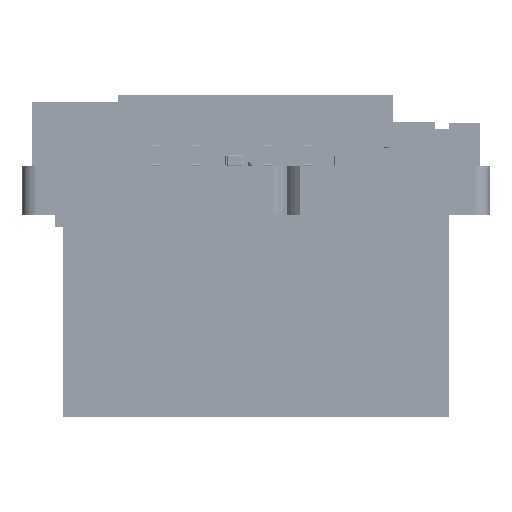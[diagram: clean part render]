
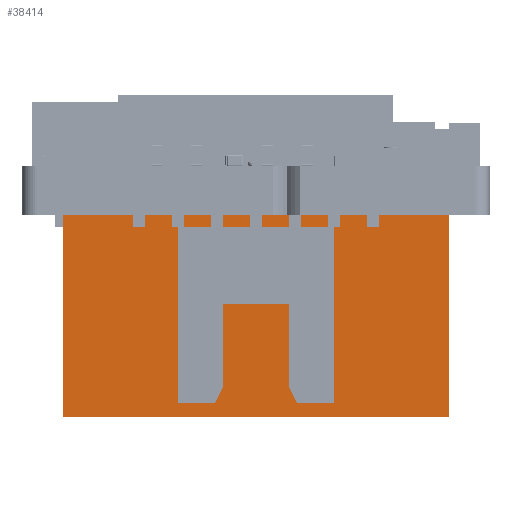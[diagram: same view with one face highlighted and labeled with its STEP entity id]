
A CAD part, front view. The second image highlights one B-rep face of the part: STEP entity #38414.
In plain terms, the highlighted planar face has unit normal (0, -1, 0).
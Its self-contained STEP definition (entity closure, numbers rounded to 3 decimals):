
#38389 = VERTEX_POINT('',#38390);
#38390 = CARTESIAN_POINT('',(6.3,-2.4,6.6));
#38396 = EDGE_CURVE('',#38397,#38389,#38399,.T.);
#38397 = VERTEX_POINT('',#38398);
#38398 = CARTESIAN_POINT('',(6.3,-2.4,0.));
#38399 = LINE('',#38400,#38401);
#38400 = CARTESIAN_POINT('',(6.3,-2.4,0.));
#38401 = VECTOR('',#38402,1.);
#38402 = DIRECTION('',(0.,0.,1.));
#38414 = ADVANCED_FACE('',(#38415),#38440,.T.);
#38415 = FACE_BOUND('',#38416,.T.);
#38416 = EDGE_LOOP('',(#38417,#38418,#38426,#38434));
#38417 = ORIENTED_EDGE('',*,*,#38396,.T.);
#38418 = ORIENTED_EDGE('',*,*,#38419,.T.);
#38419 = EDGE_CURVE('',#38389,#38420,#38422,.T.);
#38420 = VERTEX_POINT('',#38421);
#38421 = CARTESIAN_POINT('',(-6.3,-2.4,6.6));
#38422 = LINE('',#38423,#38424);
#38423 = CARTESIAN_POINT('',(6.3,-2.4,6.6));
#38424 = VECTOR('',#38425,1.);
#38425 = DIRECTION('',(-1.,0.,0.));
#38426 = ORIENTED_EDGE('',*,*,#38427,.F.);
#38427 = EDGE_CURVE('',#38428,#38420,#38430,.T.);
#38428 = VERTEX_POINT('',#38429);
#38429 = CARTESIAN_POINT('',(-6.3,-2.4,0.));
#38430 = LINE('',#38431,#38432);
#38431 = CARTESIAN_POINT('',(-6.3,-2.4,0.));
#38432 = VECTOR('',#38433,1.);
#38433 = DIRECTION('',(0.,0.,1.));
#38434 = ORIENTED_EDGE('',*,*,#38435,.F.);
#38435 = EDGE_CURVE('',#38397,#38428,#38436,.T.);
#38436 = LINE('',#38437,#38438);
#38437 = CARTESIAN_POINT('',(6.3,-2.4,0.));
#38438 = VECTOR('',#38439,1.);
#38439 = DIRECTION('',(-1.,0.,0.));
#38440 = PLANE('',#38441);
#38441 = AXIS2_PLACEMENT_3D('',#38442,#38443,#38444);
#38442 = CARTESIAN_POINT('',(6.3,-2.4,0.));
#38443 = DIRECTION('',(0.,-1.,0.));
#38444 = DIRECTION('',(-1.,0.,0.));
